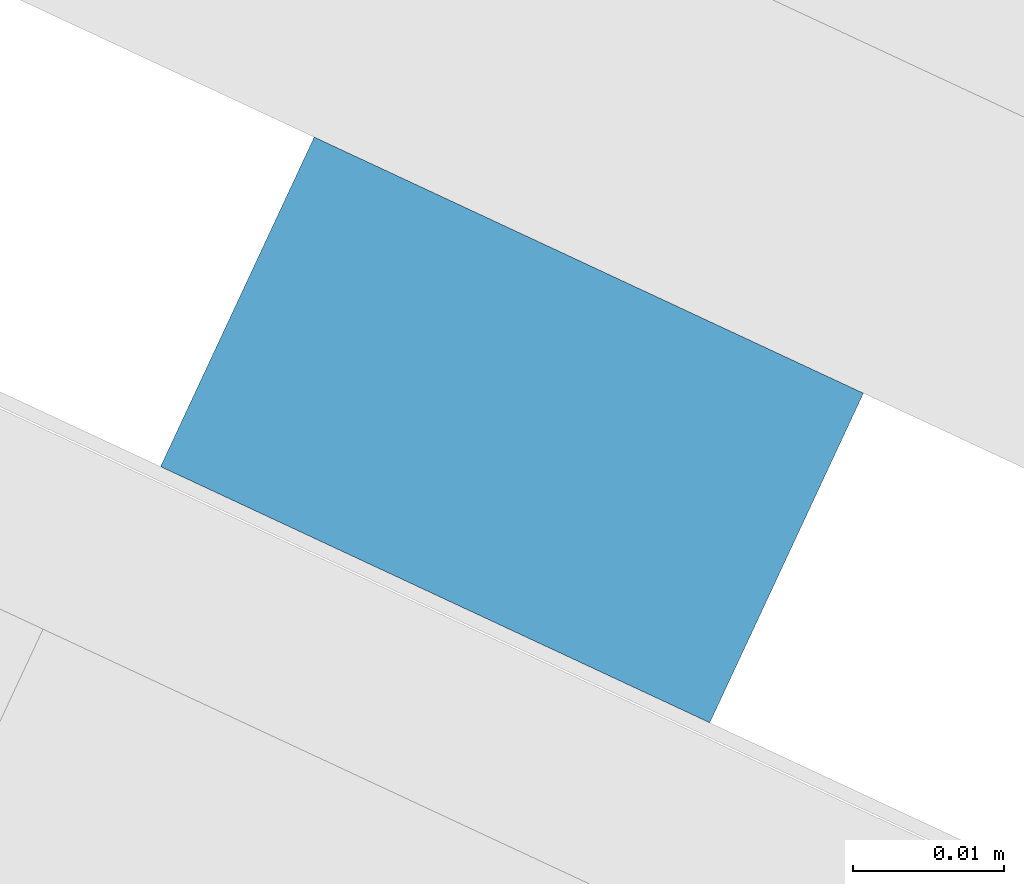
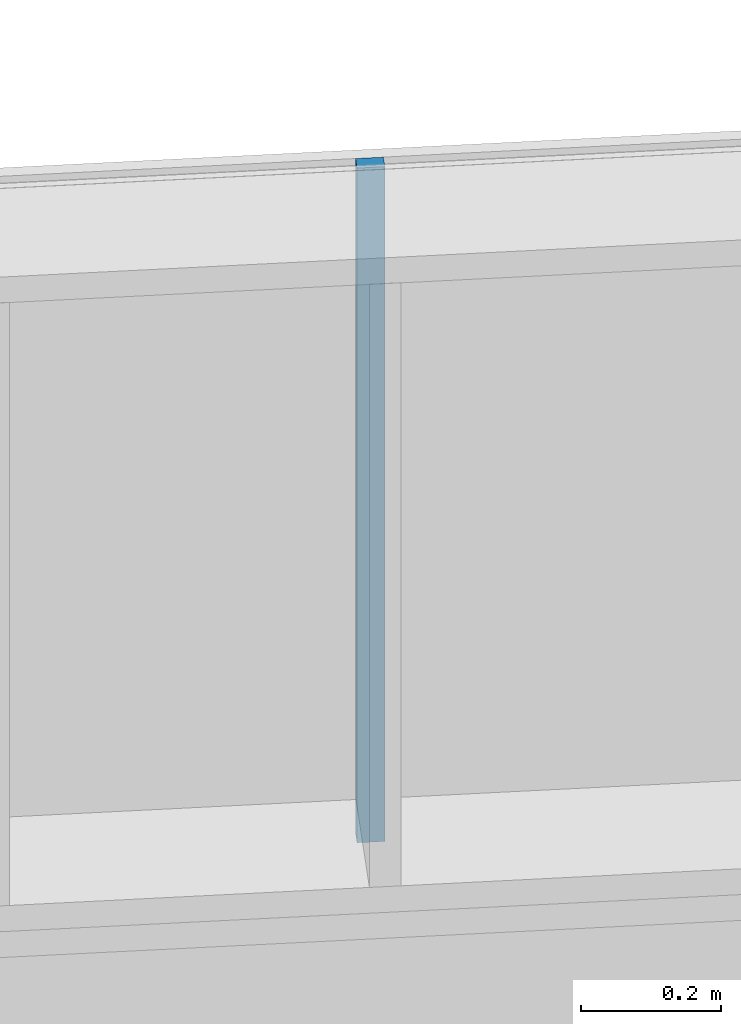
# One storey, part 10 of 24: 1 member.
"""IFC2X3 building model written with IfcOpenShell, lengths in metres."""

from ifc_helpers import new_model, si_unit, direction, frame, origin_with_axes, place, context, subcontext, project, spatial, faceted_brep, material, element, save


model = new_model("IFC2X3")

# Units and contexts
model_context = context("Model", 3, precision=1e-06, world=origin_with_axes(), true_north=direction((0.0, 1.0, 0.0)))
body_context = subcontext(model_context, "Body", "Model", "MODEL_VIEW")
ifc_project = project(units=[si_unit("LENGTHUNIT", "METRE"), si_unit("AREAUNIT", "SQUARE_METRE"), si_unit("VOLUMEUNIT", "CUBIC_METRE"), si_unit("PLANEANGLEUNIT", "RADIAN")], contexts=[model_context])

# Site, building, storey
site_placement = place(None, origin_with_axes())
site = spatial("IfcSite", under=ifc_project, at=site_placement, CompositionType="ELEMENT")
building_placement = place(site_placement, origin_with_axes())
building = spatial("IfcBuilding", under=site, at=building_placement, Name="Building 1", CompositionType="ELEMENT")
storey_placement = place(building_placement, origin_with_axes())
storey = spatial("IfcBuildingStorey", under=building, at=storey_placement, Name="Premier Etage", CompositionType="ELEMENT", Elevation=0.0)

# Member
ifc_material = material(Name="Epicéa C24")
member_placement = place(storey_placement, frame((13.7253369, 4.6668011, 3.9860549), z_axis=(0.4226183, 0.9063078, 0.0), x_axis=(0.0, 0.0, -1.0)))
element("IfcMember", 1, at=member_placement, inside=storey, material=ifc_material, Name="latte 27/40", context=body_context, shape_type="Brep", body=[
    faceted_brep([(1.1760549, -0.02, 0.012), (0.0, -0.02, 0.012), (0.0, -0.02, -0.012), (1.1760549, -0.02, -0.012), (1.1760549, 0.02, -0.012), (0.0, 0.02, -0.012), (0.0, 0.02, 0.012), (1.1760549, 0.02, 0.012)], [[[0, 1, 2, 3]], [[4, 3, 2, 5]], [[6, 7, 4, 5]], [[0, 7, 6, 1]], [[7, 0, 3, 4]], [[1, 6, 5, 2]]]),
])

save(model, "model.ifc")
